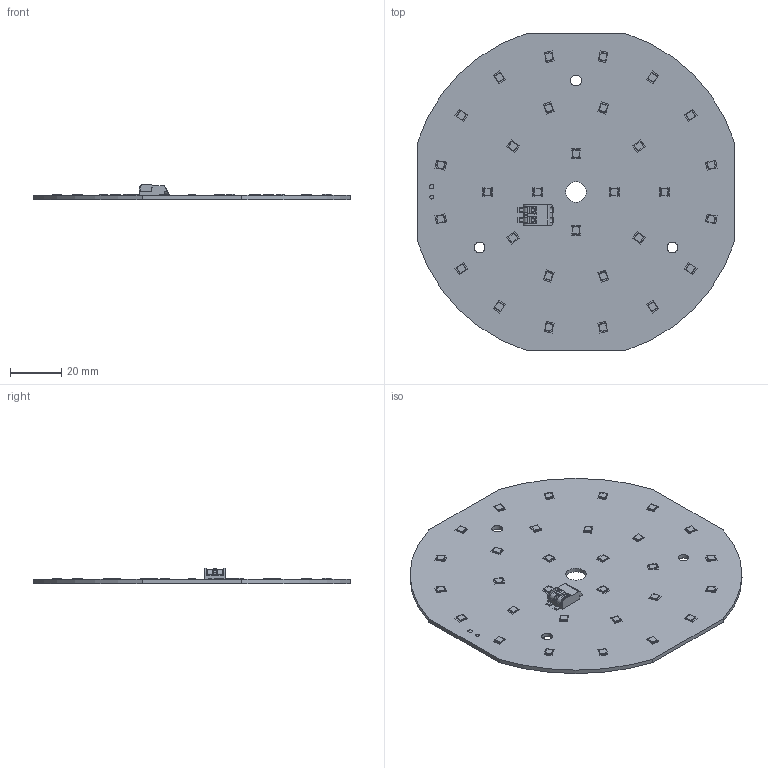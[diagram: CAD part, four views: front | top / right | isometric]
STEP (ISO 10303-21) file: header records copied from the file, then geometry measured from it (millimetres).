
FILE_DESCRIPTION (( 'STEP AP214' ), '1' );
FILE_NAME ('CLE130.STEP', '2014-06-18T07:28:44', ( 'Zumtobel' ), ( 'Zumtobel' ), 'SwSTEP 2.0', 'SolidWorks 2014', '' );
FILE_SCHEMA (( 'AUTOMOTIVE_DESIGN' ));
Length unit declared in the file: millimetre
Products named in the file (105): LED28(B).1_Top; LED5(B).2_Top; LED30(B); LED13(B).1_Top; TP1; LED27(A).2_Top; LED5(B).1_Top; LED4(B); LED11(B).2_Top; Testpoint150; LED27(A).1_Top; LED6(A).2_Top; LED16(A); LED11(B).1_Top; TP150; LED26(B).2_Top; LED6(A).1_Top; LED14(A); LED2(B).2_Top; LED13(B); LED26(B).1_Top; LED7(B).2_Top; LED9(B).2_Top; LED2(B).1_Top; LED20(A); LED25(A).2_Top; LED7(B).1_Top; LED9(B).1_Top; LED1(A).2_Top; LED7(B); LED25(A).1_Top; X1.4_Top; LED22(B).2_Top; LED1(A).1_Top; LED3(A); LED21(A).2_Top; wago_2060_2pol; X1.3_Top; LED22(B).1_Top; LED19(B).2_Top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
Assembly tree (133 placements, depth 4):
  CLE130
    LED14(A)
      LED-SMD-Nichia_030x030
        Nichia_NFSL757DT
      TP1.1_Top
      TP2.1_Top
      X1.1_Top
      X1.2_Top
      X1.3_Top
      X1.4_Top
      LED7(B).1_Top
      LED7(B).2_Top
      LED6(A).1_Top
      LED6(A).2_Top
      LED5(B).1_Top
      LED5(B).2_Top
      LED4(B).1_Top
      LED4(B).2_Top
      LED3(A).1_Top
      LED3(A).2_Top
      LED8(A).1_Top
      LED8(A).2_Top
      LED20(A).1_Top
      LED20(A).2_Top
      LED12(A).1_Top
      LED12(A).2_Top
      LED19(B).1_Top
      LED19(B).2_Top
      LED1(A).1_Top
      LED1(A).2_Top
      LED2(B).1_Top
      LED2(B).2_Top
      LED11(B).1_Top
      LED11(B).2_Top
      LED13(B).1_Top
      LED13(B).2_Top
      LED18(A).1_Top
      LED18(A).2_Top
      LED14(A).1_Top
      LED14(A).2_Top
      LED17(B).1_Top
      LED17(B).2_Top
      LED16(A).1_Top
      LED16(A).2_Top
      LED15(B).1_Top
      LED15(B).2_Top
      LED21(A).1_Top
      LED21(A).2_Top
      LED25(A).1_Top
      LED25(A).2_Top
      LED26(B).1_Top
      LED26(B).2_Top
      LED27(A).1_Top
      LED27(A).2_Top
      LED28(B).1_Top
      LED28(B).2_Top
      LED24(B).1_Top
      LED24(B).2_Top
      LED29(A).1_Top
      LED29(A).2_Top
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Bounding box: 124 x 124 x 6 mm (x, y, z)
Volume: 21631 mm3; surface area: 28918.7 mm2
Topology: 129 solids, 129 shells, 1575 faces, 3835 edges, 2548 vertices
Faces by surface type: plane 1315, cylinder 258, bspline 2
Entity records: 36766 total; most frequent: CARTESIAN_POINT 4768, DIRECTION 4227, ORIENTED_EDGE 4190, EDGE_CURVE 2095, VECTOR 1909, LINE 1909, VERTEX_POINT 1388, AXIS2_PLACEMENT_3D 1159
